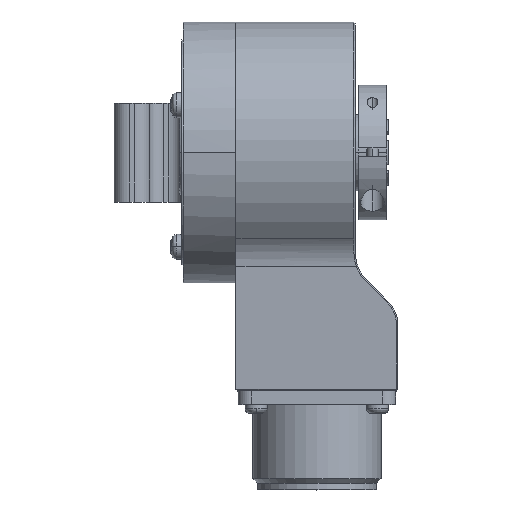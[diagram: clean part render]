
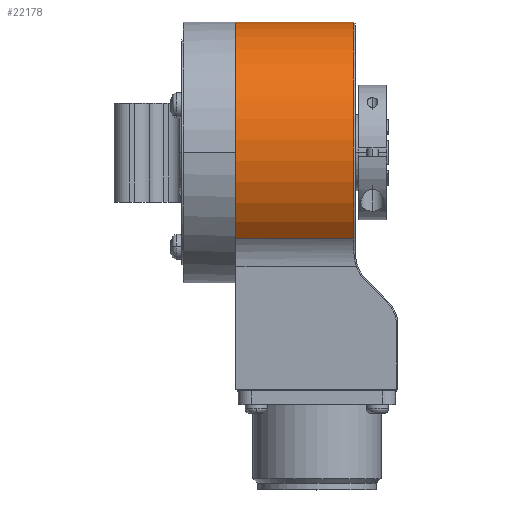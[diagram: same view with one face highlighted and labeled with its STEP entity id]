
A CAD part, top view. The second image highlights one B-rep face of the part: STEP entity #22178.
In plain terms, the highlighted cylindrical face has radius 29 mm (diameter 58 mm), a partial arc.
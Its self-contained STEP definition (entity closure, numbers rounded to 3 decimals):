
#802 = VERTEX_POINT ( 'NONE', #11723 ) ;
#1151 = EDGE_CURVE ( 'NONE', #22950, #802, #19661, .T. ) ;
#1468 = EDGE_CURVE ( 'NONE', #13804, #802, #19132, .T. ) ;
#1587 = VECTOR ( 'NONE', #8009, 1000. ) ;
#4070 = EDGE_CURVE ( 'NONE', #18172, #22950, #15111, .T. ) ;
#4734 = DIRECTION ( 'NONE',  ( 1., 0., 0. ) ) ;
#4867 = DIRECTION ( 'NONE',  ( 0., 1., 0. ) ) ;
#4900 = AXIS2_PLACEMENT_3D ( 'NONE', #16025, #4734, #4867 ) ;
#6322 = CARTESIAN_POINT ( 'NONE',  ( 8.068, 54.423, 0. ) ) ;
#7535 = CARTESIAN_POINT ( 'NONE',  ( 8.068, 54.423, 0. ) ) ;
#7672 = EDGE_CURVE ( 'NONE', #13804, #18172, #20811, .T. ) ;
#7812 = EDGE_LOOP ( 'NONE', ( #9101, #8163, #24458, #11493 ) ) ;
#8009 = DIRECTION ( 'NONE',  ( 1., 0., 0. ) ) ;
#8163 = ORIENTED_EDGE ( 'NONE', *, *, #7672, .T. ) ;
#8746 = FACE_OUTER_BOUND ( 'NONE', #7812, .T. ) ;
#9101 = ORIENTED_EDGE ( 'NONE', *, *, #1468, .F. ) ;
#9252 = DIRECTION ( 'NONE',  ( 0., 1., 0. ) ) ;
#10522 = CARTESIAN_POINT ( 'NONE',  ( 34.268, 25.423, 0. ) ) ;
#11075 = CYLINDRICAL_SURFACE ( 'NONE', #4900, 29. ) ;
#11493 = ORIENTED_EDGE ( 'NONE', *, *, #1151, .T. ) ;
#11723 = CARTESIAN_POINT ( 'NONE',  ( 34.268, 54.423, 0. ) ) ;
#13060 = CARTESIAN_POINT ( 'NONE',  ( 8.068, 6.195, 21.709 ) ) ;
#13804 = VERTEX_POINT ( 'NONE', #6322 ) ;
#15111 = LINE ( 'NONE', #20920, #15573 ) ;
#15134 = CARTESIAN_POINT ( 'NONE',  ( 34.268, 6.195, 21.709 ) ) ;
#15573 = VECTOR ( 'NONE', #17034, 1000. ) ;
#16025 = CARTESIAN_POINT ( 'NONE',  ( 8.068, 25.423, 0. ) ) ;
#16314 = DIRECTION ( 'NONE',  ( -1., 0., 0. ) ) ;
#16433 = DIRECTION ( 'NONE',  ( 0., 1., 0. ) ) ;
#17034 = DIRECTION ( 'NONE',  ( 1., 0., 0. ) ) ;
#18172 = VERTEX_POINT ( 'NONE', #13060 ) ;
#18735 = AXIS2_PLACEMENT_3D ( 'NONE', #23209, #19048, #9252 ) ;
#19048 = DIRECTION ( 'NONE',  ( 1., 0., 0. ) ) ;
#19132 = LINE ( 'NONE', #7535, #1587 ) ;
#19661 = CIRCLE ( 'NONE', #25047, 29. ) ;
#20811 = CIRCLE ( 'NONE', #18735, 29. ) ;
#20920 = CARTESIAN_POINT ( 'NONE',  ( 8.068, 6.195, 21.709 ) ) ;
#22178 = ADVANCED_FACE ( 'NONE', ( #8746 ), #11075, .T. ) ;
#22950 = VERTEX_POINT ( 'NONE', #15134 ) ;
#23209 = CARTESIAN_POINT ( 'NONE',  ( 8.068, 25.423, 0. ) ) ;
#24458 = ORIENTED_EDGE ( 'NONE', *, *, #4070, .T. ) ;
#25047 = AXIS2_PLACEMENT_3D ( 'NONE', #10522, #16314, #16433 ) ;
